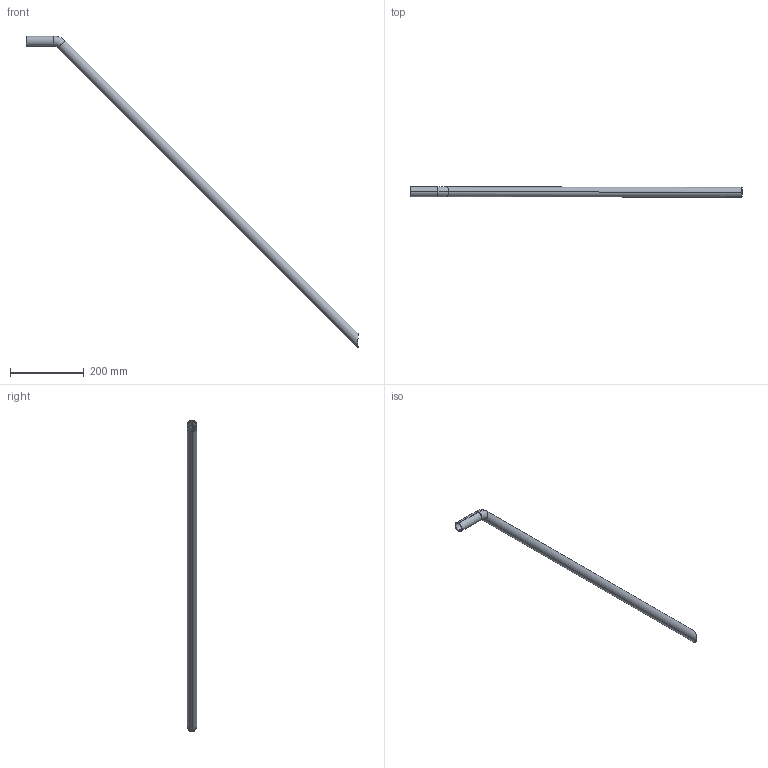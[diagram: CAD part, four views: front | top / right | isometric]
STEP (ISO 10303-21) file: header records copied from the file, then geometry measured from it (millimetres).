
FILE_DESCRIPTION (( 'STEP AP214' ), '1' );
FILE_NAME ('CCJ029-REP.306 - LISSE ESCALIER SUPERIEUR TYPE 1.STEP', '2025-04-17T08:34:01', ( '' ), ( '' ), 'SwSTEP 2.0', 'SolidWorks 2021', '' );
FILE_SCHEMA (( 'AUTOMOTIVE_DESIGN' ));
Length unit declared in the file: millimetre
Products named in the file (1): CCJ029-REP.306 - LISSE ESCALIER SUPERIEUR TYPE 1
Bounding box: 902.54 x 26.9 x 847.01 mm (x, y, z)
Volume: 220187.7 mm3; surface area: 191888.6 mm2
Topology: 1 solids, 1 shells, 14 faces, 28 edges, 16 vertices
Faces by surface type: cylinder 8, torus 4, plane 2
Entity records: 402 total; most frequent: CARTESIAN_POINT 71, DIRECTION 70, ORIENTED_EDGE 56, AXIS2_PLACEMENT_3D 31, EDGE_CURVE 28, EDGE_LOOP 16, VERTEX_POINT 16, CIRCLE 16
